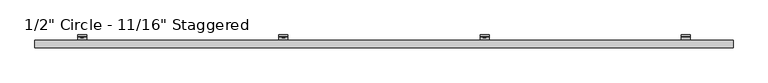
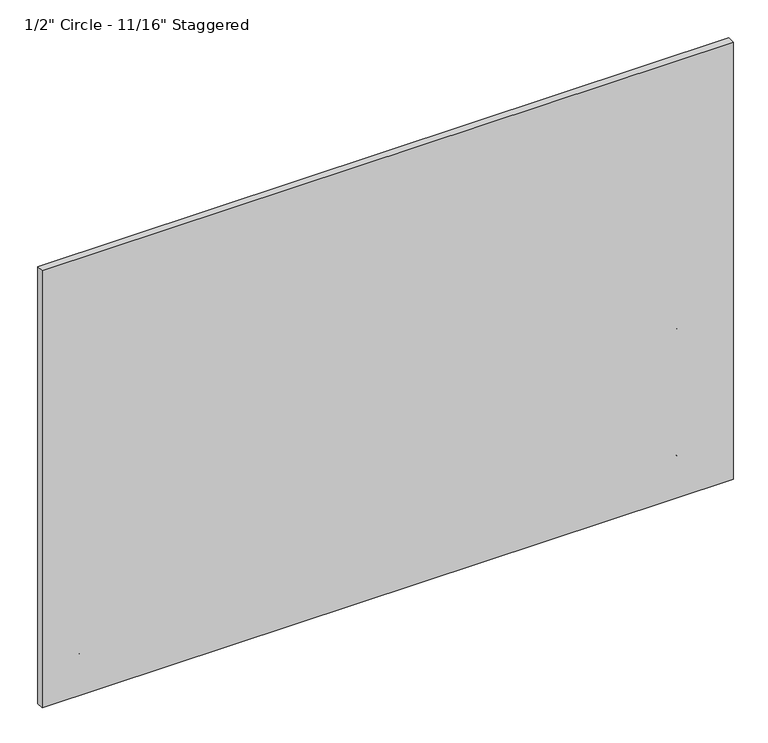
"""IFC4 building model written with IfcOpenShell, lengths in millimetres: plate geometry."""

from ifc_helpers import new_model, si_unit, point, frame, frame_2d, origin, place, context, project, spatial, polyline, circle_curve, trimmed, segment, composite_curve, outline, extrude, source, transform, mapped, element, save
from ifc_brep_helpers import plane_surface, cylinder_surface, revolved_surface, advanced_brep


def plate_c508770f(model_context):
    return source(origin(), model_context, "Body", "SolidModel", [
        advanced_brep(
        [(1279.525, -47.625, 737.3555208), (1279.525, -51.2819443, 729.6934884), (1279.525, -89.5163624, 702.9214606), (1279.525, -92.9330442, 706.3381424), (1279.525, -54.3526876, 733.3523989), (1279.525, -52.4002, 737.3555917), (1279.525, -52.4002, 771.5482059), (1279.525, -47.625, 771.5482059), (1317.625, -47.625, 737.3555208), (1317.625, -47.625, 771.5482059), (1317.625, -52.4002, 771.5482059), (1317.625, -52.4002, 737.3555917), (1317.625, -54.3526876, 733.3523989), (1317.625, -92.9330442, 706.3381424), (1317.625, -89.5163624, 702.9214606), (1317.625, -51.2819443, 729.6934884), (1305.3161889, -52.4002, 757.5029897), (1305.3161889, -52.4002, 751.1529897), (1289.0883287, -52.4002, 751.1529897), (1289.0883287, -52.4002, 757.5029897), (1305.3161889, -47.625, 751.1529897), (1305.3161889, -47.625, 757.5029897), (1289.0883287, -47.625, 757.5029897), (1289.0883287, -47.625, 751.1529897)],
        [
            (0, 1, circle_curve(frame((1279.525, -57.4802202, 737.3555208), z_axis=(-1.0, 0.0, 0.0), x_axis=(0.0, -1.0, 0.0)), 9.8552202)),
            (1, 2),
            (2, 3),
            (3, 4),
            (4, 5, circle_curve(frame((1279.525, -57.4803246, 737.3555917), z_axis=(1.0, 0.0, 0.0), x_axis=(0.0, -1.0, 0.0)), 5.0801246)),
            (5, 6),
            (6, 7),
            (7, 0),
            (8, 9),
            (9, 10),
            (10, 11),
            (11, 12, circle_curve(frame((1317.625, -57.4803246, 737.3555917), z_axis=(-1.0, 0.0, 0.0), x_axis=(0.0, -1.0, 0.0)), 5.0801246)),
            (12, 13),
            (13, 14),
            (14, 15),
            (15, 8, circle_curve(frame((1317.625, -57.4802202, 737.3555208), z_axis=(1.0, 0.0, 0.0), x_axis=(0.0, -1.0, 0.0)), 9.8552202)),
            (4, 12),
            (11, 5),
            (10, 6),
            (16, 17, circle_curve(frame((1305.3161889, -52.4002, 754.3279897), z_axis=(0.0, 1.0, 0.0), x_axis=(0.0, 0.0, -1.0)), 3.175)),
            (17, 18),
            (18, 19, circle_curve(frame((1289.0883287, -52.4002, 754.3279897), z_axis=(0.0, 1.0, 0.0), x_axis=(0.0, 0.0, -1.0)), 3.175)),
            (19, 16),
            (9, 7),
            (8, 0),
            (20, 21, circle_curve(frame((1305.3161889, -47.625, 754.3279897), z_axis=(0.0, -1.0, 0.0), x_axis=(0.0, 0.0, -1.0)), 3.175)),
            (21, 22),
            (22, 23, circle_curve(frame((1289.0883287, -47.625, 754.3279897), z_axis=(0.0, -1.0, 0.0), x_axis=(0.0, 0.0, -1.0)), 3.175)),
            (23, 20),
            (15, 1),
            (20, 17),
            (16, 21),
            (19, 22),
            (18, 23),
            (14, 2),
            (13, 3),
        ],
        [
            plane_surface(frame((1279.525, -67.3354404, 737.3555208), z_axis=(-1.0, 0.0, 0.0), x_axis=(0.0, 0.0, 1.0))),
            plane_surface(frame((1317.625, -67.3354404, 737.3555208), z_axis=(1.0, 0.0, 0.0), x_axis=(0.0, 0.0, -1.0))),
            revolved_surface(polyline([(1317.625, -62.5604492, 737.3555917), (1279.525, -62.5604492, 737.3555917)]), (1317.625, -57.4803246, 737.3555917), (1.0, 0.0, 0.0)),
            plane_surface(frame((1279.525, -52.4002, 737.3555917), z_axis=(0.0, -1.0, 0.0), x_axis=(1.0, 0.0, 0.0))),
            plane_surface(frame((1279.525, -52.4002, 771.5482059), z_axis=(0.0, 0.0, 1.0), x_axis=(1.0, 0.0, 0.0))),
            plane_surface(frame((1279.525, -47.625, 771.5482059), z_axis=(0.0, 1.0, 6.99569853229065e-12), x_axis=(1.0, 0.0, 0.0))),
            cylinder_surface(frame((1317.625, -57.4802202, 737.3555208), z_axis=(-1.0, 0.0, 0.0), x_axis=(0.0, -1.0, 0.0)), 9.8552202),
            revolved_surface(polyline([(1305.3161889, -52.4002, 751.1529897), (1305.3161889, -47.625, 751.1529897)]), (1305.3161889, -25.6669948, 754.3279897), (0.0, -1.0, 0.0)),
            plane_surface(frame((1305.3161889, -86.677982, 757.5029897), z_axis=(0.0, 0.0, -1.0), x_axis=(0.0, 1.0, 0.0))),
            revolved_surface(polyline([(1289.0883287, -52.4002, 751.1529897), (1289.0883287, -47.625, 751.1529897)]), (1289.0883287, -25.6669948, 754.3279897), (0.0, -1.0, 0.0)),
            plane_surface(frame((1289.0883287, -86.677982, 751.1529897), z_axis=(-2.7237733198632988e-11, 0.0, 1.0), x_axis=(0.0, 1.0, 0.0))),
            plane_surface(frame((1279.525, -51.2819443, 729.6934884), z_axis=(0.0, 0.5735764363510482, -0.8191520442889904), x_axis=(1.0, 0.0, 0.0))),
            plane_surface(frame((1279.525, -89.5163624, 702.9214606), z_axis=(0.0, -0.7071067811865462, -0.7071067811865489), x_axis=(1.0, 0.0, 0.0))),
            plane_surface(frame((1279.525, -92.9330442, 706.3381424), z_axis=(0.0, -0.5735764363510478, 0.8191520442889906), x_axis=(1.0, 0.0, 0.0))),
        ],
        [
            (0, [[1, 2, 3, 4, 5, 6, 7, 8]]),
            (1, [[9, 10, 11, 12, 13, 14, 15, 16]]),
            (2, [[-5, 17, -12, 18]]),
            (3, [[-6, -18, -11, 19], [20, 21, 22, 23]]),
            (4, [[-7, -19, -10, 24]]),
            (5, [[-8, -24, -9, 25], [26, 27, 28, 29]]),
            (6, [[-1, -25, -16, 30]]),
            (7, [[31, -20, 32, -26]]),
            (8, [[-32, -23, 33, -27]]),
            (9, [[-33, -22, 34, -28]]),
            (10, [[-31, -29, -34, -21]]),
            (11, [[-2, -30, -15, 35]]),
            (12, [[-3, -35, -14, 36]]),
            (13, [[-4, -36, -13, -17]]),
        ],
    ),
        extrude(outline(polyline([(754.5048329, 427.8403368), (750.1591204, 430.349335), (750.1591204, 435.3673316), (754.5048329, 437.8763299), (758.8505454, 435.3673316), (758.8505454, 430.349335), (754.5048329, 427.8403368)])), frame((0.0, -58.7607779, 0.0), z_axis=(0.0, 1.0, 0.0), x_axis=(0.0, 0.0, 1.0)), (0.0, 0.0, 1.0), 11.1357779),
        extrude(outline(composite_curve([segment(trimmed(circle_curve(frame_2d((754.5981399, 432.8583333)), 6.35), [point((754.5981399, 439.2083333))], [point((754.5981399, 426.5083333))], False, "CARTESIAN"), True, "CONTINUOUS"), segment(trimmed(circle_curve(frame_2d((754.5981399, 432.8583333)), 6.35), [point((754.5981399, 426.5083333))], [point((754.5981399, 439.2083333))], False, "CARTESIAN"), True, "CONTINUOUS")], self_intersect=False)), frame((0.0, -57.0817743, 0.0), z_axis=(0.0, 1.0, 0.0), x_axis=(0.0, 0.0, 1.0)), (0.0, 0.0, 1.0), 9.4567743),
        advanced_brep(
        [(413.8083333, -47.625, 737.3555208), (413.8083333, -51.2819443, 729.6934884), (413.8083333, -89.5163624, 702.9214606), (413.8083333, -92.9330442, 706.3381424), (413.8083333, -54.3526876, 733.3523989), (413.8083333, -52.4002, 737.3555917), (413.8083333, -52.4002, 771.5482059), (413.8083333, -47.625, 771.5482059), (451.9083333, -47.625, 737.3555208), (451.9083333, -47.625, 771.5482059), (451.9083333, -52.4002, 771.5482059), (451.9083333, -52.4002, 737.3555917), (451.9083333, -54.3526876, 733.3523989), (451.9083333, -92.9330442, 706.3381424), (451.9083333, -89.5163624, 702.9214606), (451.9083333, -51.2819443, 729.6934884), (439.5995222, -52.4002, 757.5029897), (439.5995222, -52.4002, 751.1529897), (423.371662, -52.4002, 751.1529897), (423.371662, -52.4002, 757.5029897), (439.5995222, -47.625, 751.1529897), (439.5995222, -47.625, 757.5029897), (423.371662, -47.625, 757.5029897), (423.371662, -47.625, 751.1529897)],
        [
            (0, 1, circle_curve(frame((413.8083333, -57.4802202, 737.3555208), z_axis=(-1.0, 0.0, 0.0), x_axis=(0.0, -1.0, 0.0)), 9.8552202)),
            (1, 2),
            (2, 3),
            (3, 4),
            (4, 5, circle_curve(frame((413.8083333, -57.4803246, 737.3555917), z_axis=(1.0, 0.0, 0.0), x_axis=(0.0, -1.0, 0.0)), 5.0801246)),
            (5, 6),
            (6, 7),
            (7, 0),
            (8, 9),
            (9, 10),
            (10, 11),
            (11, 12, circle_curve(frame((451.9083333, -57.4803246, 737.3555917), z_axis=(-1.0, 0.0, 0.0), x_axis=(0.0, -1.0, 0.0)), 5.0801246)),
            (12, 13),
            (13, 14),
            (14, 15),
            (15, 8, circle_curve(frame((451.9083333, -57.4802202, 737.3555208), z_axis=(1.0, 0.0, 0.0), x_axis=(0.0, -1.0, 0.0)), 9.8552202)),
            (4, 12),
            (11, 5),
            (10, 6),
            (16, 17, circle_curve(frame((439.5995222, -52.4002, 754.3279897), z_axis=(0.0, 1.0, 0.0), x_axis=(0.0, 0.0, -1.0)), 3.175)),
            (17, 18),
            (18, 19, circle_curve(frame((423.371662, -52.4002, 754.3279897), z_axis=(0.0, 1.0, 0.0), x_axis=(0.0, 0.0, -1.0)), 3.175)),
            (19, 16),
            (9, 7),
            (8, 0),
            (20, 21, circle_curve(frame((439.5995222, -47.625, 754.3279897), z_axis=(0.0, -1.0, 0.0), x_axis=(0.0, 0.0, -1.0)), 3.175)),
            (21, 22),
            (22, 23, circle_curve(frame((423.371662, -47.625, 754.3279897), z_axis=(0.0, -1.0, 0.0), x_axis=(0.0, 0.0, -1.0)), 3.175)),
            (23, 20),
            (15, 1),
            (20, 17),
            (16, 21),
            (19, 22),
            (18, 23),
            (14, 2),
            (13, 3),
        ],
        [
            plane_surface(frame((413.8083333, -67.3354404, 737.3555208), z_axis=(-1.0, 0.0, 0.0), x_axis=(0.0, 0.0, 1.0))),
            plane_surface(frame((451.9083333, -67.3354404, 737.3555208), z_axis=(1.0, 0.0, 0.0), x_axis=(0.0, 0.0, -1.0))),
            revolved_surface(polyline([(451.9083333, -62.5604492, 737.3555917), (413.8083333, -62.5604492, 737.3555917)]), (451.9083333, -57.4803246, 737.3555917), (1.0, 0.0, 0.0)),
            plane_surface(frame((413.8083333, -52.4002, 737.3555917), z_axis=(0.0, -1.0, 0.0), x_axis=(1.0, 0.0, 0.0))),
            plane_surface(frame((413.8083333, -52.4002, 771.5482059), z_axis=(0.0, 0.0, 1.0), x_axis=(1.0, 0.0, 0.0))),
            plane_surface(frame((413.8083333, -47.625, 771.5482059), z_axis=(0.0, 1.0, 6.99569853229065e-12), x_axis=(1.0, 0.0, 0.0))),
            cylinder_surface(frame((451.9083333, -57.4802202, 737.3555208), z_axis=(-1.0, 0.0, 0.0), x_axis=(0.0, -1.0, 0.0)), 9.8552202),
            revolved_surface(polyline([(439.5995222, -52.4002, 751.1529897), (439.5995222, -47.625, 751.1529897)]), (439.5995222, -25.6669948, 754.3279897), (0.0, -1.0, 0.0)),
            plane_surface(frame((439.5995222, -86.677982, 757.5029897), z_axis=(0.0, 0.0, -1.0), x_axis=(0.0, 1.0, 0.0))),
            revolved_surface(polyline([(423.371662, -52.4002, 751.1529897), (423.371662, -47.625, 751.1529897)]), (423.371662, -25.6669948, 754.3279897), (0.0, -1.0, 0.0)),
            plane_surface(frame((423.371662, -86.677982, 751.1529897), z_axis=(-2.7237733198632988e-11, 0.0, 1.0), x_axis=(0.0, 1.0, 0.0))),
            plane_surface(frame((413.8083333, -51.2819443, 729.6934884), z_axis=(0.0, 0.5735764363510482, -0.8191520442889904), x_axis=(1.0, 0.0, 0.0))),
            plane_surface(frame((413.8083333, -89.5163624, 702.9214606), z_axis=(0.0, -0.7071067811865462, -0.7071067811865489), x_axis=(1.0, 0.0, 0.0))),
            plane_surface(frame((413.8083333, -92.9330442, 706.3381424), z_axis=(0.0, -0.5735764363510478, 0.8191520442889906), x_axis=(1.0, 0.0, 0.0))),
        ],
        [
            (0, [[1, 2, 3, 4, 5, 6, 7, 8]]),
            (1, [[9, 10, 11, 12, 13, 14, 15, 16]]),
            (2, [[-5, 17, -12, 18]]),
            (3, [[-6, -18, -11, 19], [20, 21, 22, 23]]),
            (4, [[-7, -19, -10, 24]]),
            (5, [[-8, -24, -9, 25], [26, 27, 28, 29]]),
            (6, [[-1, -25, -16, 30]]),
            (7, [[31, -20, 32, -26]]),
            (8, [[-32, -23, 33, -27]]),
            (9, [[-33, -22, 34, -28]]),
            (10, [[-31, -29, -34, -21]]),
            (11, [[-2, -30, -15, 35]]),
            (12, [[-3, -35, -14, 36]]),
            (13, [[-4, -36, -13, -17]]),
        ],
    ),
        extrude(outline(polyline([(754.5048329, -437.8763299), (750.1591204, -435.3673316), (750.1591204, -430.349335), (754.5048329, -427.8403368), (758.8505454, -430.349335), (758.8505454, -435.3673316), (754.5048329, -437.8763299)])), frame((0.0, -58.7607779, 0.0), z_axis=(0.0, 1.0, 0.0), x_axis=(0.0, 0.0, 1.0)), (0.0, 0.0, 1.0), 11.1357779),
        extrude(outline(composite_curve([segment(trimmed(circle_curve(frame_2d((754.5981399, -432.8583333)), 6.35), [point((754.5981399, -426.5083333))], [point((754.5981399, -439.2083333))], False, "CARTESIAN"), True, "CONTINUOUS"), segment(trimmed(circle_curve(frame_2d((754.5981399, -432.8583333)), 6.35), [point((754.5981399, -439.2083333))], [point((754.5981399, -426.5083333))], False, "CARTESIAN"), True, "CONTINUOUS")], self_intersect=False)), frame((0.0, -57.0817743, 0.0), z_axis=(0.0, 1.0, 0.0), x_axis=(0.0, 0.0, 1.0)), (0.0, 0.0, 1.0), 9.4567743),
        advanced_brep(
        [(-451.9083333, -47.625, 737.3555208), (-451.9083333, -51.2819443, 729.6934884), (-451.9083333, -89.5163624, 702.9214606), (-451.9083333, -92.9330442, 706.3381424), (-451.9083333, -54.3526876, 733.3523989), (-451.9083333, -52.4002, 737.3555917), (-451.9083333, -52.4002, 771.5482059), (-451.9083333, -47.625, 771.5482059), (-413.8083333, -47.625, 737.3555208), (-413.8083333, -47.625, 771.5482059), (-413.8083333, -52.4002, 771.5482059), (-413.8083333, -52.4002, 737.3555917), (-413.8083333, -54.3526876, 733.3523989), (-413.8083333, -92.9330442, 706.3381424), (-413.8083333, -89.5163624, 702.9214606), (-413.8083333, -51.2819443, 729.6934884), (-426.1171444, -52.4002, 757.5029897), (-426.1171444, -52.4002, 751.1529897), (-442.3450046, -52.4002, 751.1529897), (-442.3450046, -52.4002, 757.5029897), (-426.1171444, -47.625, 751.1529897), (-426.1171444, -47.625, 757.5029897), (-442.3450046, -47.625, 757.5029897), (-442.3450046, -47.625, 751.1529897)],
        [
            (0, 1, circle_curve(frame((-451.9083333, -57.4802202, 737.3555208), z_axis=(-1.0, 0.0, 0.0), x_axis=(0.0, -1.0, 0.0)), 9.8552202)),
            (1, 2),
            (2, 3),
            (3, 4),
            (4, 5, circle_curve(frame((-451.9083333, -57.4803246, 737.3555917), z_axis=(1.0, 0.0, 0.0), x_axis=(0.0, -1.0, 0.0)), 5.0801246)),
            (5, 6),
            (6, 7),
            (7, 0),
            (8, 9),
            (9, 10),
            (10, 11),
            (11, 12, circle_curve(frame((-413.8083333, -57.4803246, 737.3555917), z_axis=(-1.0, 0.0, 0.0), x_axis=(0.0, -1.0, 0.0)), 5.0801246)),
            (12, 13),
            (13, 14),
            (14, 15),
            (15, 8, circle_curve(frame((-413.8083333, -57.4802202, 737.3555208), z_axis=(1.0, 0.0, 0.0), x_axis=(0.0, -1.0, 0.0)), 9.8552202)),
            (4, 12),
            (11, 5),
            (10, 6),
            (16, 17, circle_curve(frame((-426.1171444, -52.4002, 754.3279897), z_axis=(0.0, 1.0, 0.0), x_axis=(0.0, 0.0, -1.0)), 3.175)),
            (17, 18),
            (18, 19, circle_curve(frame((-442.3450046, -52.4002, 754.3279897), z_axis=(0.0, 1.0, 0.0), x_axis=(0.0, 0.0, -1.0)), 3.175)),
            (19, 16),
            (9, 7),
            (8, 0),
            (20, 21, circle_curve(frame((-426.1171444, -47.625, 754.3279897), z_axis=(0.0, -1.0, 0.0), x_axis=(0.0, 0.0, -1.0)), 3.175)),
            (21, 22),
            (22, 23, circle_curve(frame((-442.3450046, -47.625, 754.3279897), z_axis=(0.0, -1.0, 0.0), x_axis=(0.0, 0.0, -1.0)), 3.175)),
            (23, 20),
            (15, 1),
            (20, 17),
            (16, 21),
            (19, 22),
            (18, 23),
            (14, 2),
            (13, 3),
        ],
        [
            plane_surface(frame((-451.9083333, -67.3354404, 737.3555208), z_axis=(-1.0, 0.0, 0.0), x_axis=(0.0, 0.0, 1.0))),
            plane_surface(frame((-413.8083333, -67.3354404, 737.3555208), z_axis=(1.0, 0.0, 0.0), x_axis=(0.0, 0.0, -1.0))),
            revolved_surface(polyline([(-413.8083333, -62.5604492, 737.3555917), (-451.9083333, -62.5604492, 737.3555917)]), (-413.8083333, -57.4803246, 737.3555917), (1.0, 0.0, 0.0)),
            plane_surface(frame((-451.9083333, -52.4002, 737.3555917), z_axis=(0.0, -1.0, 0.0), x_axis=(1.0, 0.0, 0.0))),
            plane_surface(frame((-451.9083333, -52.4002, 771.5482059), z_axis=(0.0, 0.0, 1.0), x_axis=(1.0, 0.0, 0.0))),
            plane_surface(frame((-451.9083333, -47.625, 771.5482059), z_axis=(0.0, 1.0, 6.99569853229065e-12), x_axis=(1.0, 0.0, 0.0))),
            cylinder_surface(frame((-413.8083333, -57.4802202, 737.3555208), z_axis=(-1.0, 0.0, 0.0), x_axis=(0.0, -1.0, 0.0)), 9.8552202),
            revolved_surface(polyline([(-426.1171444, -52.4002, 751.1529897), (-426.1171444, -47.625, 751.1529897)]), (-426.1171444, -25.6669948, 754.3279897), (0.0, -1.0, 0.0)),
            plane_surface(frame((-426.1171444, -86.677982, 757.5029897), z_axis=(0.0, 0.0, -1.0), x_axis=(0.0, 1.0, 0.0))),
            revolved_surface(polyline([(-442.3450046, -52.4002, 751.1529897), (-442.3450046, -47.625, 751.1529897)]), (-442.3450046, -25.6669948, 754.3279897), (0.0, -1.0, 0.0)),
            plane_surface(frame((-442.3450046, -86.677982, 751.1529897), z_axis=(-2.7237733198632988e-11, 0.0, 1.0), x_axis=(0.0, 1.0, 0.0))),
            plane_surface(frame((-451.9083333, -51.2819443, 729.6934884), z_axis=(0.0, 0.5735764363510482, -0.8191520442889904), x_axis=(1.0, 0.0, 0.0))),
            plane_surface(frame((-451.9083333, -89.5163624, 702.9214606), z_axis=(0.0, -0.7071067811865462, -0.7071067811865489), x_axis=(1.0, 0.0, 0.0))),
            plane_surface(frame((-451.9083333, -92.9330442, 706.3381424), z_axis=(0.0, -0.5735764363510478, 0.8191520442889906), x_axis=(1.0, 0.0, 0.0))),
        ],
        [
            (0, [[1, 2, 3, 4, 5, 6, 7, 8]]),
            (1, [[9, 10, 11, 12, 13, 14, 15, 16]]),
            (2, [[-5, 17, -12, 18]]),
            (3, [[-6, -18, -11, 19], [20, 21, 22, 23]]),
            (4, [[-7, -19, -10, 24]]),
            (5, [[-8, -24, -9, 25], [26, 27, 28, 29]]),
            (6, [[-1, -25, -16, 30]]),
            (7, [[31, -20, 32, -26]]),
            (8, [[-32, -23, 33, -27]]),
            (9, [[-33, -22, 34, -28]]),
            (10, [[-31, -29, -34, -21]]),
            (11, [[-2, -30, -15, 35]]),
            (12, [[-3, -35, -14, 36]]),
            (13, [[-4, -36, -13, -17]]),
        ],
    ),
        extrude(outline(polyline([(754.5048329, -1303.5929966), (750.1591204, -1301.0839983), (750.1591204, -1296.0660017), (754.5048329, -1293.5570034), (758.8505454, -1296.0660017), (758.8505454, -1301.0839983), (754.5048329, -1303.5929966)])), frame((0.0, -58.7607779, 0.0), z_axis=(0.0, 1.0, 0.0), x_axis=(0.0, 0.0, 1.0)), (0.0, 0.0, 1.0), 11.1357779),
        extrude(outline(composite_curve([segment(trimmed(circle_curve(frame_2d((754.5981399, -1298.575)), 6.35), [point((754.5981399, -1292.225))], [point((754.5981399, -1304.925))], False, "CARTESIAN"), True, "CONTINUOUS"), segment(trimmed(circle_curve(frame_2d((754.5981399, -1298.575)), 6.35), [point((754.5981399, -1304.925))], [point((754.5981399, -1292.225))], False, "CARTESIAN"), True, "CONTINUOUS")], self_intersect=False)), frame((0.0, -57.0817743, 0.0), z_axis=(0.0, 1.0, 0.0), x_axis=(0.0, 0.0, 1.0)), (0.0, 0.0, 1.0), 9.4567743),
        advanced_brep(
        [(-1317.625, -47.625, 737.3555208), (-1317.625, -51.2819443, 729.6934884), (-1317.625, -89.5163624, 702.9214606), (-1317.625, -92.9330442, 706.3381424), (-1317.625, -54.3526876, 733.3523989), (-1317.625, -52.4002, 737.3555917), (-1317.625, -52.4002, 771.5482059), (-1317.625, -47.625, 771.5482059), (-1279.525, -47.625, 737.3555208), (-1279.525, -47.625, 771.5482059), (-1279.525, -52.4002, 771.5482059), (-1279.525, -52.4002, 737.3555917), (-1279.525, -54.3526876, 733.3523989), (-1279.525, -92.9330442, 706.3381424), (-1279.525, -89.5163624, 702.9214606), (-1279.525, -51.2819443, 729.6934884), (-1291.8338111, -52.4002, 757.5029897), (-1291.8338111, -52.4002, 751.1529897), (-1308.0616713, -52.4002, 751.1529897), (-1308.0616713, -52.4002, 757.5029897), (-1291.8338111, -47.625, 751.1529897), (-1291.8338111, -47.625, 757.5029897), (-1308.0616713, -47.625, 757.5029897), (-1308.0616713, -47.625, 751.1529897)],
        [
            (0, 1, circle_curve(frame((-1317.625, -57.4802202, 737.3555208), z_axis=(-1.0, 0.0, 0.0), x_axis=(0.0, -1.0, 0.0)), 9.8552202)),
            (1, 2),
            (2, 3),
            (3, 4),
            (4, 5, circle_curve(frame((-1317.625, -57.4803246, 737.3555917), z_axis=(1.0, 0.0, 0.0), x_axis=(0.0, -1.0, 0.0)), 5.0801246)),
            (5, 6),
            (6, 7),
            (7, 0),
            (8, 9),
            (9, 10),
            (10, 11),
            (11, 12, circle_curve(frame((-1279.525, -57.4803246, 737.3555917), z_axis=(-1.0, 0.0, 0.0), x_axis=(0.0, -1.0, 0.0)), 5.0801246)),
            (12, 13),
            (13, 14),
            (14, 15),
            (15, 8, circle_curve(frame((-1279.525, -57.4802202, 737.3555208), z_axis=(1.0, 0.0, 0.0), x_axis=(0.0, -1.0, 0.0)), 9.8552202)),
            (4, 12),
            (11, 5),
            (10, 6),
            (16, 17, circle_curve(frame((-1291.8338111, -52.4002, 754.3279897), z_axis=(0.0, 1.0, 0.0), x_axis=(0.0, 0.0, -1.0)), 3.175)),
            (17, 18),
            (18, 19, circle_curve(frame((-1308.0616713, -52.4002, 754.3279897), z_axis=(0.0, 1.0, 0.0), x_axis=(0.0, 0.0, -1.0)), 3.175)),
            (19, 16),
            (9, 7),
            (8, 0),
            (20, 21, circle_curve(frame((-1291.8338111, -47.625, 754.3279897), z_axis=(0.0, -1.0, 0.0), x_axis=(0.0, 0.0, -1.0)), 3.175)),
            (21, 22),
            (22, 23, circle_curve(frame((-1308.0616713, -47.625, 754.3279897), z_axis=(0.0, -1.0, 0.0), x_axis=(0.0, 0.0, -1.0)), 3.175)),
            (23, 20),
            (15, 1),
            (20, 17),
            (16, 21),
            (19, 22),
            (18, 23),
            (14, 2),
            (13, 3),
        ],
        [
            plane_surface(frame((-1317.625, -67.3354404, 737.3555208), z_axis=(-1.0, 0.0, 0.0), x_axis=(0.0, 0.0, 1.0))),
            plane_surface(frame((-1279.525, -67.3354404, 737.3555208), z_axis=(1.0, 0.0, 0.0), x_axis=(0.0, 0.0, -1.0))),
            revolved_surface(polyline([(-1279.525, -62.5604492, 737.3555917), (-1317.625, -62.5604492, 737.3555917)]), (-1279.525, -57.4803246, 737.3555917), (1.0, 0.0, 0.0)),
            plane_surface(frame((-1317.625, -52.4002, 737.3555917), z_axis=(0.0, -1.0, 0.0), x_axis=(1.0, 0.0, 0.0))),
            plane_surface(frame((-1317.625, -52.4002, 771.5482059), z_axis=(0.0, 0.0, 1.0), x_axis=(1.0, 0.0, 0.0))),
            plane_surface(frame((-1317.625, -47.625, 771.5482059), z_axis=(0.0, 1.0, 6.99569853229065e-12), x_axis=(1.0, 0.0, 0.0))),
            cylinder_surface(frame((-1279.525, -57.4802202, 737.3555208), z_axis=(-1.0, 0.0, 0.0), x_axis=(0.0, -1.0, 0.0)), 9.8552202),
            revolved_surface(polyline([(-1291.8338111, -52.4002, 751.1529897), (-1291.8338111, -47.625, 751.1529897)]), (-1291.8338111, -25.6669948, 754.3279897), (0.0, -1.0, 0.0)),
            plane_surface(frame((-1291.8338111, -86.677982, 757.5029897), z_axis=(0.0, 0.0, -1.0), x_axis=(0.0, 1.0, 0.0))),
            revolved_surface(polyline([(-1308.0616713, -52.4002, 751.1529897), (-1308.0616713, -47.625, 751.1529897)]), (-1308.0616713, -25.6669948, 754.3279897), (0.0, -1.0, 0.0)),
            plane_surface(frame((-1308.0616713, -86.677982, 751.1529897), z_axis=(-2.7237733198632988e-11, 0.0, 1.0), x_axis=(0.0, 1.0, 0.0))),
            plane_surface(frame((-1317.625, -51.2819443, 729.6934884), z_axis=(0.0, 0.5735764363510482, -0.8191520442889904), x_axis=(1.0, 0.0, 0.0))),
            plane_surface(frame((-1317.625, -89.5163624, 702.9214606), z_axis=(0.0, -0.7071067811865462, -0.7071067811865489), x_axis=(1.0, 0.0, 0.0))),
            plane_surface(frame((-1317.625, -92.9330442, 706.3381424), z_axis=(0.0, -0.5735764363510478, 0.8191520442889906), x_axis=(1.0, 0.0, 0.0))),
        ],
        [
            (0, [[1, 2, 3, 4, 5, 6, 7, 8]]),
            (1, [[9, 10, 11, 12, 13, 14, 15, 16]]),
            (2, [[-5, 17, -12, 18]]),
            (3, [[-6, -18, -11, 19], [20, 21, 22, 23]]),
            (4, [[-7, -19, -10, 24]]),
            (5, [[-8, -24, -9, 25], [26, 27, 28, 29]]),
            (6, [[-1, -25, -16, 30]]),
            (7, [[31, -20, 32, -26]]),
            (8, [[-32, -23, 33, -27]]),
            (9, [[-33, -22, 34, -28]]),
            (10, [[-31, -29, -34, -21]]),
            (11, [[-2, -30, -15, 35]]),
            (12, [[-3, -35, -14, 36]]),
            (13, [[-4, -36, -13, -17]]),
        ],
    ),
        extrude(outline(polyline([(169.8795323, 1293.5570034), (165.5338197, 1296.0660017), (165.5338197, 1301.0839983), (169.8795323, 1303.5929966), (174.2252448, 1301.0839983), (174.2252448, 1296.0660017), (169.8795323, 1293.5570034)])), frame((0.0, -58.7607779, 0.0), z_axis=(0.0, 1.0, 0.0), x_axis=(0.0, 0.0, 1.0)), (0.0, 0.0, 1.0), 11.1357779),
        extrude(outline(composite_curve([segment(trimmed(circle_curve(frame_2d((169.9728392, 1298.575)), 6.35), [point((169.9728392, 1304.925))], [point((169.9728392, 1292.225))], False, "CARTESIAN"), True, "CONTINUOUS"), segment(trimmed(circle_curve(frame_2d((169.9728392, 1298.575)), 6.35), [point((169.9728392, 1292.225))], [point((169.9728392, 1304.925))], False, "CARTESIAN"), True, "CONTINUOUS")], self_intersect=False)), frame((0.0, -57.0817743, 0.0), z_axis=(0.0, 1.0, 0.0), x_axis=(0.0, 0.0, 1.0)), (0.0, 0.0, 1.0), 9.4567743),
        advanced_brep(
        [(1279.525, -47.625, 152.7302202), (1279.525, -51.2819443, 145.0681877), (1279.525, -89.5163624, 118.29616), (1279.525, -92.9330442, 121.7128418), (1279.525, -54.3526876, 148.7270983), (1279.525, -52.4002, 152.7302911), (1279.525, -52.4002, 186.9229053), (1279.525, -47.625, 186.9229053), (1317.625, -47.625, 152.7302202), (1317.625, -47.625, 186.9229053), (1317.625, -52.4002, 186.9229053), (1317.625, -52.4002, 152.7302911), (1317.625, -54.3526876, 148.7270983), (1317.625, -92.9330442, 121.7128418), (1317.625, -89.5163624, 118.29616), (1317.625, -51.2819443, 145.0681877), (1305.3161889, -52.4002, 172.8776891), (1305.3161889, -52.4002, 166.5276891), (1289.0883287, -52.4002, 166.5276891), (1289.0883287, -52.4002, 172.8776891), (1305.3161889, -47.625, 166.5276891), (1305.3161889, -47.625, 172.8776891), (1289.0883287, -47.625, 172.8776891), (1289.0883287, -47.625, 166.5276891)],
        [
            (0, 1, circle_curve(frame((1279.525, -57.4802202, 152.7302202), z_axis=(-1.0, 0.0, 0.0), x_axis=(0.0, -1.0, 0.0)), 9.8552202)),
            (1, 2),
            (2, 3),
            (3, 4),
            (4, 5, circle_curve(frame((1279.525, -57.4803246, 152.7302911), z_axis=(1.0, 0.0, 0.0), x_axis=(0.0, -1.0, 0.0)), 5.0801246)),
            (5, 6),
            (6, 7),
            (7, 0),
            (8, 9),
            (9, 10),
            (10, 11),
            (11, 12, circle_curve(frame((1317.625, -57.4803246, 152.7302911), z_axis=(-1.0, 0.0, 0.0), x_axis=(0.0, -1.0, 0.0)), 5.0801246)),
            (12, 13),
            (13, 14),
            (14, 15),
            (15, 8, circle_curve(frame((1317.625, -57.4802202, 152.7302202), z_axis=(1.0, 0.0, 0.0), x_axis=(0.0, -1.0, 0.0)), 9.8552202)),
            (4, 12),
            (11, 5),
            (10, 6),
            (16, 17, circle_curve(frame((1305.3161889, -52.4002, 169.7026891), z_axis=(0.0, 1.0, 0.0), x_axis=(0.0, 0.0, -1.0)), 3.175)),
            (17, 18),
            (18, 19, circle_curve(frame((1289.0883287, -52.4002, 169.7026891), z_axis=(0.0, 1.0, 0.0), x_axis=(0.0, 0.0, -1.0)), 3.175)),
            (19, 16),
            (9, 7),
            (8, 0),
            (20, 21, circle_curve(frame((1305.3161889, -47.625, 169.7026891), z_axis=(0.0, -1.0, 0.0), x_axis=(0.0, 0.0, -1.0)), 3.175)),
            (21, 22),
            (22, 23, circle_curve(frame((1289.0883287, -47.625, 169.7026891), z_axis=(0.0, -1.0, 0.0), x_axis=(0.0, 0.0, -1.0)), 3.175)),
            (23, 20),
            (15, 1),
            (20, 17),
            (16, 21),
            (19, 22),
            (18, 23),
            (14, 2),
            (13, 3),
        ],
        [
            plane_surface(frame((1279.525, -67.3354404, 152.7302202), z_axis=(-1.0, 0.0, 0.0), x_axis=(0.0, 0.0, 1.0))),
            plane_surface(frame((1317.625, -67.3354404, 152.7302202), z_axis=(1.0, 0.0, 0.0), x_axis=(0.0, 0.0, -1.0))),
            revolved_surface(polyline([(1317.625, -62.5604492, 152.7302911), (1279.525, -62.5604492, 152.7302911)]), (1317.625, -57.4803246, 152.7302911), (1.0, 0.0, 0.0)),
            plane_surface(frame((1279.525, -52.4002, 152.7302911), z_axis=(0.0, -1.0, 0.0), x_axis=(1.0, 0.0, 0.0))),
            plane_surface(frame((1279.525, -52.4002, 186.9229053), z_axis=(0.0, 0.0, 1.0), x_axis=(1.0, 0.0, 0.0))),
            plane_surface(frame((1279.525, -47.625, 186.9229053), z_axis=(0.0, 1.0, 6.99569853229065e-12), x_axis=(1.0, 0.0, 0.0))),
            cylinder_surface(frame((1317.625, -57.4802202, 152.7302202), z_axis=(-1.0, 0.0, 0.0), x_axis=(0.0, -1.0, 0.0)), 9.8552202),
            revolved_surface(polyline([(1305.3161889, -52.4002, 166.52768909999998), (1305.3161889, -47.625, 166.52768909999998)]), (1305.3161889, -25.6669948, 169.7026891), (0.0, -1.0, 0.0)),
            plane_surface(frame((1305.3161889, -86.677982, 172.8776891), z_axis=(0.0, 0.0, -1.0), x_axis=(0.0, 1.0, 0.0))),
            revolved_surface(polyline([(1289.0883287, -52.4002, 166.52768909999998), (1289.0883287, -47.625, 166.52768909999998)]), (1289.0883287, -25.6669948, 169.7026891), (0.0, -1.0, 0.0)),
            plane_surface(frame((1289.0883287, -86.677982, 166.5276891), z_axis=(-2.723774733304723e-11, 0.0, 1.0), x_axis=(0.0, 1.0, 0.0))),
            plane_surface(frame((1279.525, -51.2819443, 145.0681877), z_axis=(0.0, 0.5735764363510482, -0.8191520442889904), x_axis=(1.0, 0.0, 0.0))),
            plane_surface(frame((1279.525, -89.5163624, 118.29616), z_axis=(0.0, -0.7071067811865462, -0.7071067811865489), x_axis=(1.0, 0.0, 0.0))),
            plane_surface(frame((1279.525, -92.9330442, 121.7128418), z_axis=(0.0, -0.5735764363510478, 0.8191520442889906), x_axis=(1.0, 0.0, 0.0))),
        ],
        [
            (0, [[1, 2, 3, 4, 5, 6, 7, 8]]),
            (1, [[9, 10, 11, 12, 13, 14, 15, 16]]),
            (2, [[-5, 17, -12, 18]]),
            (3, [[-6, -18, -11, 19], [20, 21, 22, 23]]),
            (4, [[-7, -19, -10, 24]]),
            (5, [[-8, -24, -9, 25], [26, 27, 28, 29]]),
            (6, [[-1, -25, -16, 30]]),
            (7, [[31, -20, 32, -26]]),
            (8, [[-32, -23, 33, -27]]),
            (9, [[-33, -22, 34, -28]]),
            (10, [[-31, -29, -34, -21]]),
            (11, [[-2, -30, -15, 35]]),
            (12, [[-3, -35, -14, 36]]),
            (13, [[-4, -36, -13, -17]]),
        ],
    ),
        extrude(outline(polyline([(169.8795323, 427.8403368), (165.5338197, 430.349335), (165.5338197, 435.3673316), (169.8795323, 437.8763299), (174.2252448, 435.3673316), (174.2252448, 430.349335), (169.8795323, 427.8403368)])), frame((0.0, -58.7607779, 0.0), z_axis=(0.0, 1.0, 0.0), x_axis=(0.0, 0.0, 1.0)), (0.0, 0.0, 1.0), 11.1357779),
        extrude(outline(composite_curve([segment(trimmed(circle_curve(frame_2d((169.9728392, 432.8583333)), 6.35), [point((169.9728392, 439.2083333))], [point((169.9728392, 426.5083333))], False, "CARTESIAN"), True, "CONTINUOUS"), segment(trimmed(circle_curve(frame_2d((169.9728392, 432.8583333)), 6.35), [point((169.9728392, 426.5083333))], [point((169.9728392, 439.2083333))], False, "CARTESIAN"), True, "CONTINUOUS")], self_intersect=False)), frame((0.0, -57.0817743, 0.0), z_axis=(0.0, 1.0, 0.0), x_axis=(0.0, 0.0, 1.0)), (0.0, 0.0, 1.0), 9.4567743),
        advanced_brep(
        [(413.8083333, -47.625, 152.7302202), (413.8083333, -51.2819443, 145.0681877), (413.8083333, -89.5163624, 118.29616), (413.8083333, -92.9330442, 121.7128418), (413.8083333, -54.3526876, 148.7270983), (413.8083333, -52.4002, 152.7302911), (413.8083333, -52.4002, 186.9229053), (413.8083333, -47.625, 186.9229053), (451.9083333, -47.625, 152.7302202), (451.9083333, -47.625, 186.9229053), (451.9083333, -52.4002, 186.9229053), (451.9083333, -52.4002, 152.7302911), (451.9083333, -54.3526876, 148.7270983), (451.9083333, -92.9330442, 121.7128418), (451.9083333, -89.5163624, 118.29616), (451.9083333, -51.2819443, 145.0681877), (439.5995222, -52.4002, 172.8776891), (439.5995222, -52.4002, 166.5276891), (423.371662, -52.4002, 166.5276891), (423.371662, -52.4002, 172.8776891), (439.5995222, -47.625, 166.5276891), (439.5995222, -47.625, 172.8776891), (423.371662, -47.625, 172.8776891), (423.371662, -47.625, 166.5276891)],
        [
            (0, 1, circle_curve(frame((413.8083333, -57.4802202, 152.7302202), z_axis=(-1.0, 0.0, 0.0), x_axis=(0.0, -1.0, 0.0)), 9.8552202)),
            (1, 2),
            (2, 3),
            (3, 4),
            (4, 5, circle_curve(frame((413.8083333, -57.4803246, 152.7302911), z_axis=(1.0, 0.0, 0.0), x_axis=(0.0, -1.0, 0.0)), 5.0801246)),
            (5, 6),
            (6, 7),
            (7, 0),
            (8, 9),
            (9, 10),
            (10, 11),
            (11, 12, circle_curve(frame((451.9083333, -57.4803246, 152.7302911), z_axis=(-1.0, 0.0, 0.0), x_axis=(0.0, -1.0, 0.0)), 5.0801246)),
            (12, 13),
            (13, 14),
            (14, 15),
            (15, 8, circle_curve(frame((451.9083333, -57.4802202, 152.7302202), z_axis=(1.0, 0.0, 0.0), x_axis=(0.0, -1.0, 0.0)), 9.8552202)),
            (4, 12),
            (11, 5),
            (10, 6),
            (16, 17, circle_curve(frame((439.5995222, -52.4002, 169.7026891), z_axis=(0.0, 1.0, 0.0), x_axis=(0.0, 0.0, -1.0)), 3.175)),
            (17, 18),
            (18, 19, circle_curve(frame((423.371662, -52.4002, 169.7026891), z_axis=(0.0, 1.0, 0.0), x_axis=(0.0, 0.0, -1.0)), 3.175)),
            (19, 16),
            (9, 7),
            (8, 0),
            (20, 21, circle_curve(frame((439.5995222, -47.625, 169.7026891), z_axis=(0.0, -1.0, 0.0), x_axis=(0.0, 0.0, -1.0)), 3.175)),
            (21, 22),
            (22, 23, circle_curve(frame((423.371662, -47.625, 169.7026891), z_axis=(0.0, -1.0, 0.0), x_axis=(0.0, 0.0, -1.0)), 3.175)),
            (23, 20),
            (15, 1),
            (20, 17),
            (16, 21),
            (19, 22),
            (18, 23),
            (14, 2),
            (13, 3),
        ],
        [
            plane_surface(frame((413.8083333, -67.3354404, 152.7302202), z_axis=(-1.0, 0.0, 0.0), x_axis=(0.0, 0.0, 1.0))),
            plane_surface(frame((451.9083333, -67.3354404, 152.7302202), z_axis=(1.0, 0.0, 0.0), x_axis=(0.0, 0.0, -1.0))),
            revolved_surface(polyline([(451.9083333, -62.5604492, 152.7302911), (413.8083333, -62.5604492, 152.7302911)]), (451.9083333, -57.4803246, 152.7302911), (1.0, 0.0, 0.0)),
            plane_surface(frame((413.8083333, -52.4002, 152.7302911), z_axis=(0.0, -1.0, 0.0), x_axis=(1.0, 0.0, 0.0))),
            plane_surface(frame((413.8083333, -52.4002, 186.9229053), z_axis=(0.0, 0.0, 1.0), x_axis=(1.0, 0.0, 0.0))),
            plane_surface(frame((413.8083333, -47.625, 186.9229053), z_axis=(0.0, 1.0, 6.99569853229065e-12), x_axis=(1.0, 0.0, 0.0))),
            cylinder_surface(frame((451.9083333, -57.4802202, 152.7302202), z_axis=(-1.0, 0.0, 0.0), x_axis=(0.0, -1.0, 0.0)), 9.8552202),
            revolved_surface(polyline([(439.5995222, -52.4002, 166.52768909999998), (439.5995222, -47.625, 166.52768909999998)]), (439.5995222, -25.6669948, 169.7026891), (0.0, -1.0, 0.0)),
            plane_surface(frame((439.5995222, -86.677982, 172.8776891), z_axis=(0.0, 0.0, -1.0), x_axis=(0.0, 1.0, 0.0))),
            revolved_surface(polyline([(423.371662, -52.4002, 166.52768909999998), (423.371662, -47.625, 166.52768909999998)]), (423.371662, -25.6669948, 169.7026891), (0.0, -1.0, 0.0)),
            plane_surface(frame((423.371662, -86.677982, 166.5276891), z_axis=(-2.723774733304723e-11, 0.0, 1.0), x_axis=(0.0, 1.0, 0.0))),
            plane_surface(frame((413.8083333, -51.2819443, 145.0681877), z_axis=(0.0, 0.5735764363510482, -0.8191520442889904), x_axis=(1.0, 0.0, 0.0))),
            plane_surface(frame((413.8083333, -89.5163624, 118.29616), z_axis=(0.0, -0.7071067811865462, -0.7071067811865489), x_axis=(1.0, 0.0, 0.0))),
            plane_surface(frame((413.8083333, -92.9330442, 121.7128418), z_axis=(0.0, -0.5735764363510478, 0.8191520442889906), x_axis=(1.0, 0.0, 0.0))),
        ],
        [
            (0, [[1, 2, 3, 4, 5, 6, 7, 8]]),
            (1, [[9, 10, 11, 12, 13, 14, 15, 16]]),
            (2, [[-5, 17, -12, 18]]),
            (3, [[-6, -18, -11, 19], [20, 21, 22, 23]]),
            (4, [[-7, -19, -10, 24]]),
            (5, [[-8, -24, -9, 25], [26, 27, 28, 29]]),
            (6, [[-1, -25, -16, 30]]),
            (7, [[31, -20, 32, -26]]),
            (8, [[-32, -23, 33, -27]]),
            (9, [[-33, -22, 34, -28]]),
            (10, [[-31, -29, -34, -21]]),
            (11, [[-2, -30, -15, 35]]),
            (12, [[-3, -35, -14, 36]]),
            (13, [[-4, -36, -13, -17]]),
        ],
    ),
        extrude(outline(polyline([(169.8795323, -437.8763299), (165.5338197, -435.3673316), (165.5338197, -430.349335), (169.8795323, -427.8403368), (174.2252448, -430.349335), (174.2252448, -435.3673316), (169.8795323, -437.8763299)])), frame((0.0, -58.7607779, 0.0), z_axis=(0.0, 1.0, 0.0), x_axis=(0.0, 0.0, 1.0)), (0.0, 0.0, 1.0), 11.1357779),
        extrude(outline(composite_curve([segment(trimmed(circle_curve(frame_2d((169.9728392, -432.8583333)), 6.35), [point((169.9728392, -426.5083333))], [point((169.9728392, -439.2083333))], False, "CARTESIAN"), True, "CONTINUOUS"), segment(trimmed(circle_curve(frame_2d((169.9728392, -432.8583333)), 6.35), [point((169.9728392, -439.2083333))], [point((169.9728392, -426.5083333))], False, "CARTESIAN"), True, "CONTINUOUS")], self_intersect=False)), frame((0.0, -57.0817743, 0.0), z_axis=(0.0, 1.0, 0.0), x_axis=(0.0, 0.0, 1.0)), (0.0, 0.0, 1.0), 9.4567743),
        advanced_brep(
        [(-451.9083333, -47.625, 152.7302202), (-451.9083333, -51.2819443, 145.0681877), (-451.9083333, -89.5163624, 118.29616), (-451.9083333, -92.9330442, 121.7128418), (-451.9083333, -54.3526876, 148.7270983), (-451.9083333, -52.4002, 152.7302911), (-451.9083333, -52.4002, 186.9229053), (-451.9083333, -47.625, 186.9229053), (-413.8083333, -47.625, 152.7302202), (-413.8083333, -47.625, 186.9229053), (-413.8083333, -52.4002, 186.9229053), (-413.8083333, -52.4002, 152.7302911), (-413.8083333, -54.3526876, 148.7270983), (-413.8083333, -92.9330442, 121.7128418), (-413.8083333, -89.5163624, 118.29616), (-413.8083333, -51.2819443, 145.0681877), (-426.1171444, -52.4002, 172.8776891), (-426.1171444, -52.4002, 166.5276891), (-442.3450046, -52.4002, 166.5276891), (-442.3450046, -52.4002, 172.8776891), (-426.1171444, -47.625, 166.5276891), (-426.1171444, -47.625, 172.8776891), (-442.3450046, -47.625, 172.8776891), (-442.3450046, -47.625, 166.5276891)],
        [
            (0, 1, circle_curve(frame((-451.9083333, -57.4802202, 152.7302202), z_axis=(-1.0, 0.0, 0.0), x_axis=(0.0, -1.0, 0.0)), 9.8552202)),
            (1, 2),
            (2, 3),
            (3, 4),
            (4, 5, circle_curve(frame((-451.9083333, -57.4803246, 152.7302911), z_axis=(1.0, 0.0, 0.0), x_axis=(0.0, -1.0, 0.0)), 5.0801246)),
            (5, 6),
            (6, 7),
            (7, 0),
            (8, 9),
            (9, 10),
            (10, 11),
            (11, 12, circle_curve(frame((-413.8083333, -57.4803246, 152.7302911), z_axis=(-1.0, 0.0, 0.0), x_axis=(0.0, -1.0, 0.0)), 5.0801246)),
            (12, 13),
            (13, 14),
            (14, 15),
            (15, 8, circle_curve(frame((-413.8083333, -57.4802202, 152.7302202), z_axis=(1.0, 0.0, 0.0), x_axis=(0.0, -1.0, 0.0)), 9.8552202)),
            (4, 12),
            (11, 5),
            (10, 6),
            (16, 17, circle_curve(frame((-426.1171444, -52.4002, 169.7026891), z_axis=(0.0, 1.0, 0.0), x_axis=(0.0, 0.0, -1.0)), 3.175)),
            (17, 18),
            (18, 19, circle_curve(frame((-442.3450046, -52.4002, 169.7026891), z_axis=(0.0, 1.0, 0.0), x_axis=(0.0, 0.0, -1.0)), 3.175)),
            (19, 16),
            (9, 7),
            (8, 0),
            (20, 21, circle_curve(frame((-426.1171444, -47.625, 169.7026891), z_axis=(0.0, -1.0, 0.0), x_axis=(0.0, 0.0, -1.0)), 3.175)),
            (21, 22),
            (22, 23, circle_curve(frame((-442.3450046, -47.625, 169.7026891), z_axis=(0.0, -1.0, 0.0), x_axis=(0.0, 0.0, -1.0)), 3.175)),
            (23, 20),
            (15, 1),
            (20, 17),
            (16, 21),
            (19, 22),
            (18, 23),
            (14, 2),
            (13, 3),
        ],
        [
            plane_surface(frame((-451.9083333, -67.3354404, 152.7302202), z_axis=(-1.0, 0.0, 0.0), x_axis=(0.0, 0.0, 1.0))),
            plane_surface(frame((-413.8083333, -67.3354404, 152.7302202), z_axis=(1.0, 0.0, 0.0), x_axis=(0.0, 0.0, -1.0))),
            revolved_surface(polyline([(-413.8083333, -62.5604492, 152.7302911), (-451.9083333, -62.5604492, 152.7302911)]), (-413.8083333, -57.4803246, 152.7302911), (1.0, 0.0, 0.0)),
            plane_surface(frame((-451.9083333, -52.4002, 152.7302911), z_axis=(0.0, -1.0, 0.0), x_axis=(1.0, 0.0, 0.0))),
            plane_surface(frame((-451.9083333, -52.4002, 186.9229053), z_axis=(0.0, 0.0, 1.0), x_axis=(1.0, 0.0, 0.0))),
            plane_surface(frame((-451.9083333, -47.625, 186.9229053), z_axis=(0.0, 1.0, 6.99569853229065e-12), x_axis=(1.0, 0.0, 0.0))),
            cylinder_surface(frame((-413.8083333, -57.4802202, 152.7302202), z_axis=(-1.0, 0.0, 0.0), x_axis=(0.0, -1.0, 0.0)), 9.8552202),
            revolved_surface(polyline([(-426.1171444, -52.4002, 166.52768909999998), (-426.1171444, -47.625, 166.52768909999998)]), (-426.1171444, -25.6669948, 169.7026891), (0.0, -1.0, 0.0)),
            plane_surface(frame((-426.1171444, -86.677982, 172.8776891), z_axis=(0.0, 0.0, -1.0), x_axis=(0.0, 1.0, 0.0))),
            revolved_surface(polyline([(-442.3450046, -52.4002, 166.52768909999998), (-442.3450046, -47.625, 166.52768909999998)]), (-442.3450046, -25.6669948, 169.7026891), (0.0, -1.0, 0.0)),
            plane_surface(frame((-442.3450046, -86.677982, 166.5276891), z_axis=(-2.723774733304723e-11, 0.0, 1.0), x_axis=(0.0, 1.0, 0.0))),
            plane_surface(frame((-451.9083333, -51.2819443, 145.0681877), z_axis=(0.0, 0.5735764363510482, -0.8191520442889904), x_axis=(1.0, 0.0, 0.0))),
            plane_surface(frame((-451.9083333, -89.5163624, 118.29616), z_axis=(0.0, -0.7071067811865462, -0.7071067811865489), x_axis=(1.0, 0.0, 0.0))),
            plane_surface(frame((-451.9083333, -92.9330442, 121.7128418), z_axis=(0.0, -0.5735764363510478, 0.8191520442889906), x_axis=(1.0, 0.0, 0.0))),
        ],
        [
            (0, [[1, 2, 3, 4, 5, 6, 7, 8]]),
            (1, [[9, 10, 11, 12, 13, 14, 15, 16]]),
            (2, [[-5, 17, -12, 18]]),
            (3, [[-6, -18, -11, 19], [20, 21, 22, 23]]),
            (4, [[-7, -19, -10, 24]]),
            (5, [[-8, -24, -9, 25], [26, 27, 28, 29]]),
            (6, [[-1, -25, -16, 30]]),
            (7, [[31, -20, 32, -26]]),
            (8, [[-32, -23, 33, -27]]),
            (9, [[-33, -22, 34, -28]]),
            (10, [[-31, -29, -34, -21]]),
            (11, [[-2, -30, -15, 35]]),
            (12, [[-3, -35, -14, 36]]),
            (13, [[-4, -36, -13, -17]]),
        ],
    ),
        extrude(outline(polyline([(169.8795323, -1303.5929966), (165.5338197, -1301.0839983), (165.5338197, -1296.0660017), (169.8795323, -1293.5570034), (174.2252448, -1296.0660017), (174.2252448, -1301.0839983), (169.8795323, -1303.5929966)])), frame((0.0, -58.7607779, 0.0), z_axis=(0.0, 1.0, 0.0), x_axis=(0.0, 0.0, 1.0)), (0.0, 0.0, 1.0), 11.1357779),
        extrude(outline(composite_curve([segment(trimmed(circle_curve(frame_2d((169.9728392, -1298.575)), 6.35), [point((169.9728392, -1292.225))], [point((169.9728392, -1304.925))], False, "CARTESIAN"), True, "CONTINUOUS"), segment(trimmed(circle_curve(frame_2d((169.9728392, -1298.575)), 6.35), [point((169.9728392, -1304.925))], [point((169.9728392, -1292.225))], False, "CARTESIAN"), True, "CONTINUOUS")], self_intersect=False)), frame((0.0, -57.0817743, 0.0), z_axis=(0.0, 1.0, 0.0), x_axis=(0.0, 0.0, 1.0)), (0.0, 0.0, 1.0), 9.4567743),
        advanced_brep(
        [(-1317.625, -47.625, 152.7302202), (-1317.625, -51.2819443, 145.0681877), (-1317.625, -89.5163624, 118.29616), (-1317.625, -92.9330442, 121.7128418), (-1317.625, -54.3526876, 148.7270983), (-1317.625, -52.4002, 152.7302911), (-1317.625, -52.4002, 186.9229053), (-1317.625, -47.625, 186.9229053), (-1279.525, -47.625, 152.7302202), (-1279.525, -47.625, 186.9229053), (-1279.525, -52.4002, 186.9229053), (-1279.525, -52.4002, 152.7302911), (-1279.525, -54.3526876, 148.7270983), (-1279.525, -92.9330442, 121.7128418), (-1279.525, -89.5163624, 118.29616), (-1279.525, -51.2819443, 145.0681877), (-1291.8338111, -52.4002, 172.8776891), (-1291.8338111, -52.4002, 166.5276891), (-1308.0616713, -52.4002, 166.5276891), (-1308.0616713, -52.4002, 172.8776891), (-1291.8338111, -47.625, 166.5276891), (-1291.8338111, -47.625, 172.8776891), (-1308.0616713, -47.625, 172.8776891), (-1308.0616713, -47.625, 166.5276891)],
        [
            (0, 1, circle_curve(frame((-1317.625, -57.4802202, 152.7302202), z_axis=(-1.0, 0.0, 0.0), x_axis=(0.0, -1.0, 0.0)), 9.8552202)),
            (1, 2),
            (2, 3),
            (3, 4),
            (4, 5, circle_curve(frame((-1317.625, -57.4803246, 152.7302911), z_axis=(1.0, 0.0, 0.0), x_axis=(0.0, -1.0, 0.0)), 5.0801246)),
            (5, 6),
            (6, 7),
            (7, 0),
            (8, 9),
            (9, 10),
            (10, 11),
            (11, 12, circle_curve(frame((-1279.525, -57.4803246, 152.7302911), z_axis=(-1.0, 0.0, 0.0), x_axis=(0.0, -1.0, 0.0)), 5.0801246)),
            (12, 13),
            (13, 14),
            (14, 15),
            (15, 8, circle_curve(frame((-1279.525, -57.4802202, 152.7302202), z_axis=(1.0, 0.0, 0.0), x_axis=(0.0, -1.0, 0.0)), 9.8552202)),
            (4, 12),
            (11, 5),
            (10, 6),
            (16, 17, circle_curve(frame((-1291.8338111, -52.4002, 169.7026891), z_axis=(0.0, 1.0, 0.0), x_axis=(0.0, 0.0, -1.0)), 3.175)),
            (17, 18),
            (18, 19, circle_curve(frame((-1308.0616713, -52.4002, 169.7026891), z_axis=(0.0, 1.0, 0.0), x_axis=(0.0, 0.0, -1.0)), 3.175)),
            (19, 16),
            (9, 7),
            (8, 0),
            (20, 21, circle_curve(frame((-1291.8338111, -47.625, 169.7026891), z_axis=(0.0, -1.0, 0.0), x_axis=(0.0, 0.0, -1.0)), 3.175)),
            (21, 22),
            (22, 23, circle_curve(frame((-1308.0616713, -47.625, 169.7026891), z_axis=(0.0, -1.0, 0.0), x_axis=(0.0, 0.0, -1.0)), 3.175)),
            (23, 20),
            (15, 1),
            (20, 17),
            (16, 21),
            (19, 22),
            (18, 23),
            (14, 2),
            (13, 3),
        ],
        [
            plane_surface(frame((-1317.625, -67.3354404, 152.7302202), z_axis=(-1.0, 0.0, 0.0), x_axis=(0.0, 0.0, 1.0))),
            plane_surface(frame((-1279.525, -67.3354404, 152.7302202), z_axis=(1.0, 0.0, 0.0), x_axis=(0.0, 0.0, -1.0))),
            revolved_surface(polyline([(-1279.525, -62.5604492, 152.7302911), (-1317.625, -62.5604492, 152.7302911)]), (-1279.525, -57.4803246, 152.7302911), (1.0, 0.0, 0.0)),
            plane_surface(frame((-1317.625, -52.4002, 152.7302911), z_axis=(0.0, -1.0, 0.0), x_axis=(1.0, 0.0, 0.0))),
            plane_surface(frame((-1317.625, -52.4002, 186.9229053), z_axis=(0.0, 0.0, 1.0), x_axis=(1.0, 0.0, 0.0))),
            plane_surface(frame((-1317.625, -47.625, 186.9229053), z_axis=(0.0, 1.0, 6.99569853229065e-12), x_axis=(1.0, 0.0, 0.0))),
            cylinder_surface(frame((-1279.525, -57.4802202, 152.7302202), z_axis=(-1.0, 0.0, 0.0), x_axis=(0.0, -1.0, 0.0)), 9.8552202),
            revolved_surface(polyline([(-1291.8338111, -52.4002, 166.52768909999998), (-1291.8338111, -47.625, 166.52768909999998)]), (-1291.8338111, -25.6669948, 169.7026891), (0.0, -1.0, 0.0)),
            plane_surface(frame((-1291.8338111, -86.677982, 172.8776891), z_axis=(0.0, 0.0, -1.0), x_axis=(0.0, 1.0, 0.0))),
            revolved_surface(polyline([(-1308.0616713, -52.4002, 166.52768909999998), (-1308.0616713, -47.625, 166.52768909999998)]), (-1308.0616713, -25.6669948, 169.7026891), (0.0, -1.0, 0.0)),
            plane_surface(frame((-1308.0616713, -86.677982, 166.5276891), z_axis=(-2.723774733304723e-11, 0.0, 1.0), x_axis=(0.0, 1.0, 0.0))),
            plane_surface(frame((-1317.625, -51.2819443, 145.0681877), z_axis=(0.0, 0.5735764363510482, -0.8191520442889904), x_axis=(1.0, 0.0, 0.0))),
            plane_surface(frame((-1317.625, -89.5163624, 118.29616), z_axis=(0.0, -0.7071067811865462, -0.7071067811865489), x_axis=(1.0, 0.0, 0.0))),
            plane_surface(frame((-1317.625, -92.9330442, 121.7128418), z_axis=(0.0, -0.5735764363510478, 0.8191520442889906), x_axis=(1.0, 0.0, 0.0))),
        ],
        [
            (0, [[1, 2, 3, 4, 5, 6, 7, 8]]),
            (1, [[9, 10, 11, 12, 13, 14, 15, 16]]),
            (2, [[-5, 17, -12, 18]]),
            (3, [[-6, -18, -11, 19], [20, 21, 22, 23]]),
            (4, [[-7, -19, -10, 24]]),
            (5, [[-8, -24, -9, 25], [26, 27, 28, 29]]),
            (6, [[-1, -25, -16, 30]]),
            (7, [[31, -20, 32, -26]]),
            (8, [[-32, -23, 33, -27]]),
            (9, [[-33, -22, 34, -28]]),
            (10, [[-31, -29, -34, -21]]),
            (11, [[-2, -30, -15, 35]]),
            (12, [[-3, -35, -14, 36]]),
            (13, [[-4, -36, -13, -17]]),
        ],
    ),
        extrude(outline(polyline([(1501.775, -102.4064478), (-1501.775, -102.4064478), (-1501.775, -69.9147678), (1501.775, -69.9147678), (1501.775, -102.4064478)])), frame((0.0, 0.0, 15.875), z_axis=(0.0, 0.0, 1.0), x_axis=(1.0, 0.0, 0.0)), (0.0, 0.0, 1.0), 2007.8759019),
    ])


if __name__ == "__main__":
    model = new_model("IFC4")
    model_context = context("Model", 3, world=origin())
    ifc_project = project(units=[si_unit("LENGTHUNIT", "METRE", prefix="MILLI")], contexts=[model_context])
    site = spatial("IfcSite", under=ifc_project)
    building = spatial("IfcBuilding", under=site)
    placement = place(None, origin())
    plate_shape = plate_c508770f(model_context)
    element("IfcPlate", 1, ObjectType="Single-Panel-Perforated-Amico_Architectural : 1/2\" Circle - 11/16\" Staggered", at=placement, inside=building, context=model_context, shape_type="MappedRepresentation", body=[
        mapped(plate_shape, transform((0.0, 0.0, 0.0), x_axis=(1.0, 0.0, 0.0), y_axis=(0.0, 1.0, 0.0), z_axis=(0.0, 0.0, 1.0))),
    ])
    save(model, "model.ifc")
